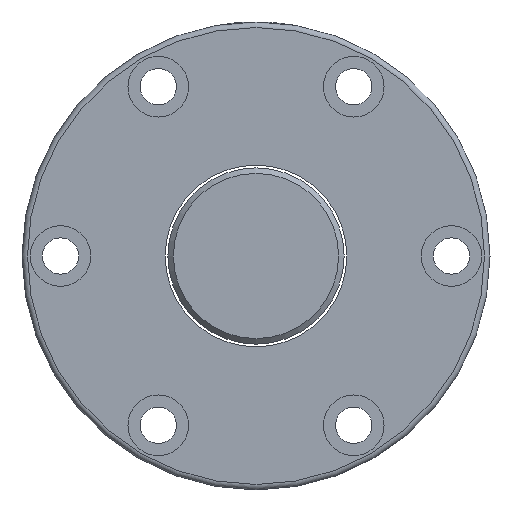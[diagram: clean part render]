
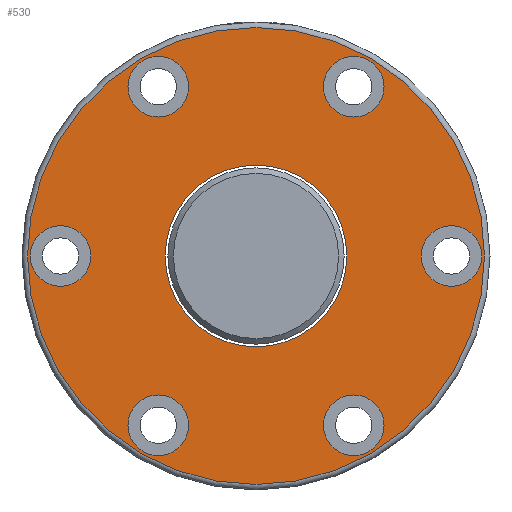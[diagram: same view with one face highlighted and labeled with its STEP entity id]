
A CAD part, left-side view. The second image highlights one B-rep face of the part: STEP entity #530.
In plain terms, the highlighted planar face has unit normal (-1, 0, 0).
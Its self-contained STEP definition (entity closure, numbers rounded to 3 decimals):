
#86=PLANE('',#606);
#114=ORIENTED_EDGE('',*,*,#216,.F.);
#115=ORIENTED_EDGE('',*,*,#217,.T.);
#116=ORIENTED_EDGE('',*,*,#218,.T.);
#117=ORIENTED_EDGE('',*,*,#219,.T.);
#118=ORIENTED_EDGE('',*,*,#220,.T.);
#119=ORIENTED_EDGE('',*,*,#221,.T.);
#120=ORIENTED_EDGE('',*,*,#222,.T.);
#121=ORIENTED_EDGE('',*,*,#223,.T.);
#216=EDGE_CURVE('',#269,#269,#313,.T.);
#217=EDGE_CURVE('',#270,#270,#314,.T.);
#218=EDGE_CURVE('',#271,#271,#315,.T.);
#219=EDGE_CURVE('',#272,#272,#316,.T.);
#220=EDGE_CURVE('',#273,#273,#317,.T.);
#221=EDGE_CURVE('',#274,#274,#318,.T.);
#222=EDGE_CURVE('',#275,#275,#319,.T.);
#223=EDGE_CURVE('',#276,#276,#320,.T.);
#269=VERTEX_POINT('',#896);
#270=VERTEX_POINT('',#898);
#271=VERTEX_POINT('',#900);
#272=VERTEX_POINT('',#902);
#273=VERTEX_POINT('',#904);
#274=VERTEX_POINT('',#906);
#275=VERTEX_POINT('',#908);
#276=VERTEX_POINT('',#910);
#313=CIRCLE('',#607,16.5);
#314=CIRCLE('',#608,41.5);
#315=CIRCLE('',#609,5.5);
#316=CIRCLE('',#610,5.5);
#317=CIRCLE('',#611,5.5);
#318=CIRCLE('',#612,5.5);
#319=CIRCLE('',#613,5.5);
#320=CIRCLE('',#614,5.5);
#359=EDGE_LOOP('',(#114));
#360=EDGE_LOOP('',(#115));
#361=EDGE_LOOP('',(#116));
#362=EDGE_LOOP('',(#117));
#363=EDGE_LOOP('',(#118));
#364=EDGE_LOOP('',(#119));
#365=EDGE_LOOP('',(#120));
#366=EDGE_LOOP('',(#121));
#446=FACE_BOUND('',#359,.T.);
#447=FACE_BOUND('',#360,.T.);
#448=FACE_BOUND('',#361,.T.);
#449=FACE_BOUND('',#362,.T.);
#450=FACE_BOUND('',#363,.T.);
#451=FACE_BOUND('',#364,.T.);
#452=FACE_BOUND('',#365,.T.);
#453=FACE_BOUND('',#366,.T.);
#530=ADVANCED_FACE('',(#446,#447,#448,#449,#450,#451,#452,#453),#86,.T.);
#606=AXIS2_PLACEMENT_3D('',#894,#708,#709);
#607=AXIS2_PLACEMENT_3D('',#895,#710,#711);
#608=AXIS2_PLACEMENT_3D('',#897,#712,#713);
#609=AXIS2_PLACEMENT_3D('',#899,#714,#715);
#610=AXIS2_PLACEMENT_3D('',#901,#716,#717);
#611=AXIS2_PLACEMENT_3D('',#903,#718,#719);
#612=AXIS2_PLACEMENT_3D('',#905,#720,#721);
#613=AXIS2_PLACEMENT_3D('',#907,#722,#723);
#614=AXIS2_PLACEMENT_3D('',#909,#724,#725);
#708=DIRECTION('',(-1.,0.,0.));
#709=DIRECTION('',(0.,0.,1.));
#710=DIRECTION('',(-1.,0.,0.));
#711=DIRECTION('',(0.,1.,0.));
#712=DIRECTION('',(-1.,0.,0.));
#713=DIRECTION('',(0.,-1.,0.));
#714=DIRECTION('',(1.,0.,0.));
#715=DIRECTION('',(0.,1.,0.));
#716=DIRECTION('',(1.,0.,0.));
#717=DIRECTION('',(0.,0.5,0.866));
#718=DIRECTION('',(1.,0.,0.));
#719=DIRECTION('',(0.,-0.5,0.866));
#720=DIRECTION('',(1.,0.,0.));
#721=DIRECTION('',(0.,-1.,0.));
#722=DIRECTION('',(1.,0.,0.));
#723=DIRECTION('',(0.,-0.5,-0.866));
#724=DIRECTION('',(1.,0.,0.));
#725=DIRECTION('',(0.,0.5,-0.866));
#894=CARTESIAN_POINT('',(-56.,0.,0.));
#895=CARTESIAN_POINT('',(-56.,0.,0.));
#896=CARTESIAN_POINT('',(-56.,16.5,0.));
#897=CARTESIAN_POINT('',(-56.,0.,0.));
#898=CARTESIAN_POINT('',(-56.,-41.5,0.));
#899=CARTESIAN_POINT('',(-56.,17.75,-30.744));
#900=CARTESIAN_POINT('',(-56.,23.25,-30.744));
#901=CARTESIAN_POINT('',(-56.,35.5,0.));
#902=CARTESIAN_POINT('',(-56.,38.25,4.763));
#903=CARTESIAN_POINT('',(-56.,17.75,30.744));
#904=CARTESIAN_POINT('',(-56.,15.,35.507));
#905=CARTESIAN_POINT('',(-56.,-17.75,30.744));
#906=CARTESIAN_POINT('',(-56.,-23.25,30.744));
#907=CARTESIAN_POINT('',(-56.,-35.5,0.));
#908=CARTESIAN_POINT('',(-56.,-38.25,-4.763));
#909=CARTESIAN_POINT('',(-56.,-17.75,-30.744));
#910=CARTESIAN_POINT('',(-56.,-15.,-35.507));
